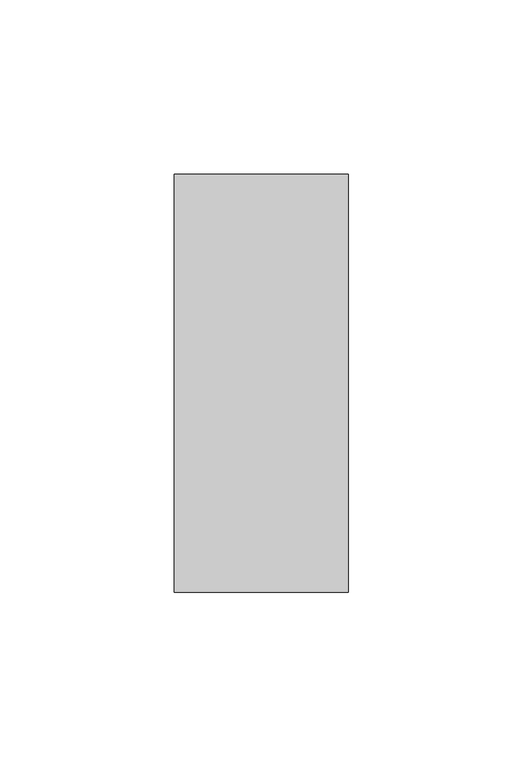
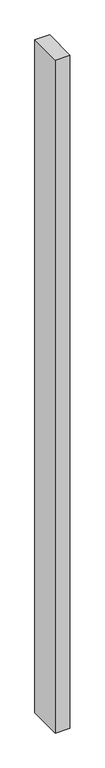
"""IFC4 building model written with IfcOpenShell, lengths in millimetres: member geometry, Прямоугольный импост : 50х120 мм."""

from ifc_helpers import new_model, si_unit, frame, origin, place, context, project, spatial, polyline, outline, extrude, source, transform, mapped, element, save


def member_f8fde225(model_context):
    return source(origin(), model_context, "Body", "SweptSolid", [
        extrude(outline(polyline([(0.0, 60.0), (0.0, -60.0), (-50.0, -60.0), (-50.0, 60.0), (0.0, 60.0)])), frame((0.0, 0.0, -2420.0), z_axis=(0.0, 0.0, 1.0), x_axis=(1.0, 0.0, 0.0)), (0.0, 0.0, 1.0), 2420.0),
    ])


if __name__ == "__main__":
    model = new_model("IFC4")
    model_context = context("Model", 3, world=origin())
    ifc_project = project(units=[si_unit("LENGTHUNIT", "METRE", prefix="MILLI")], contexts=[model_context])
    site = spatial("IfcSite", under=ifc_project)
    building = spatial("IfcBuilding", under=site)
    placement = place(None, origin())
    member_shape = member_f8fde225(model_context)
    element("IfcMember", 1, ObjectType="Прямоугольный импост : 50х120 мм", at=placement, inside=building, context=model_context, shape_type="MappedRepresentation", body=[
        mapped(member_shape, transform((0.0, 0.0, 0.0), x_axis=(1.0, 0.0, 0.0), y_axis=(0.0, 1.0, 0.0), z_axis=(0.0, 0.0, 1.0))),
    ])
    save(model, "model.ifc")
